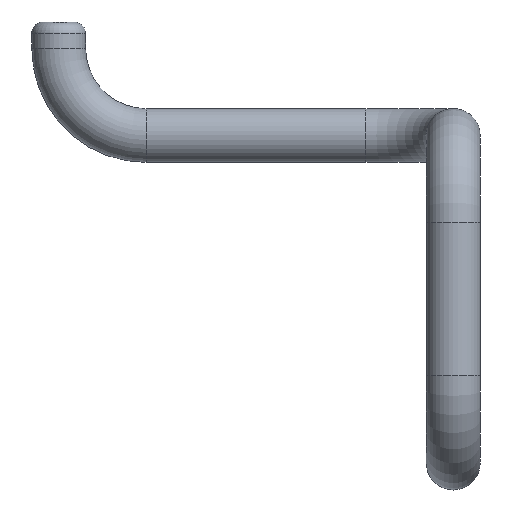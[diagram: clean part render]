
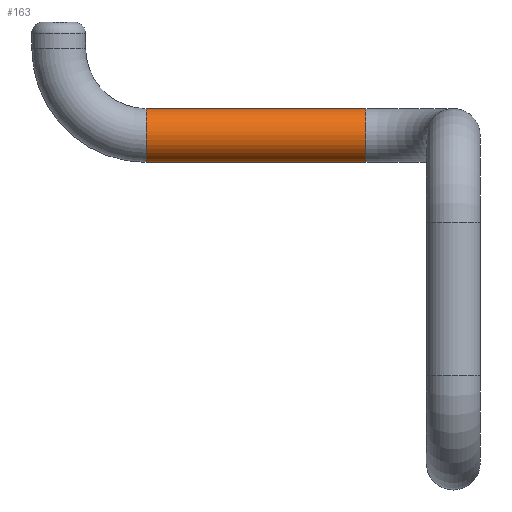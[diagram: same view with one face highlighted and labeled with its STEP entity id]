
A CAD part, left-side view. The second image highlights one B-rep face of the part: STEP entity #163.
In plain terms, the highlighted cylindrical face has radius 0.925 mm (diameter 1.85 mm), a full revolution.
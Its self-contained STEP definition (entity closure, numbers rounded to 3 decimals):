
#152 = TOROIDAL_SURFACE('',#153,3.,0.925);
#153 = AXIS2_PLACEMENT_3D('',#154,#155,#156);
#154 = CARTESIAN_POINT('',(-3.81,-12.428,-6.5));
#155 = DIRECTION('',(1.,-0.,0.));
#156 = DIRECTION('',(0.,0.,-1.));
#163 = ADVANCED_FACE('',(#164),#178,.T.);
#164 = FACE_BOUND('',#165,.T.);
#165 = EDGE_LOOP('',(#166,#195,#216,#217));
#166 = ORIENTED_EDGE('',*,*,#167,.T.);
#167 = EDGE_CURVE('',#168,#170,#172,.T.);
#168 = VERTEX_POINT('',#169);
#169 = CARTESIAN_POINT('',(-3.81,-19.99,-8.575));
#170 = VERTEX_POINT('',#171);
#171 = CARTESIAN_POINT('',(-3.81,-12.428,-8.575));
#172 = SEAM_CURVE('',#173,(#177,#189),.PCURVE_S1.);
#173 = LINE('',#174,#175);
#174 = CARTESIAN_POINT('',(-3.81,-19.99,-8.575));
#175 = VECTOR('',#176,1.);
#176 = DIRECTION('',(0.,1.,0.));
#177 = PCURVE('',#178,#183);
#178 = CYLINDRICAL_SURFACE('',#179,0.925);
#179 = AXIS2_PLACEMENT_3D('',#180,#181,#182);
#180 = CARTESIAN_POINT('',(-3.81,-19.99,-9.5));
#181 = DIRECTION('',(0.,1.,0.));
#182 = DIRECTION('',(0.,-0.,1.));
#183 = DEFINITIONAL_REPRESENTATION('',(#184),#188);
#184 = LINE('',#185,#186);
#185 = CARTESIAN_POINT('',(6.283,0.));
#186 = VECTOR('',#187,1.);
#187 = DIRECTION('',(0.,1.));
#188 = ( GEOMETRIC_REPRESENTATION_CONTEXT(2) 
PARAMETRIC_REPRESENTATION_CONTEXT() REPRESENTATION_CONTEXT('2D SPACE',''
  ) );
#189 = PCURVE('',#178,#190);
#190 = DEFINITIONAL_REPRESENTATION('',(#191),#194);
#191 = B_SPLINE_CURVE_WITH_KNOTS('',1,(#192,#193),.UNSPECIFIED.,.F.,.F.,
  (2,2),(0.,7.562),.PIECEWISE_BEZIER_KNOTS.);
#192 = CARTESIAN_POINT('',(0.,0.));
#193 = CARTESIAN_POINT('',(0.,7.562));
#194 = ( GEOMETRIC_REPRESENTATION_CONTEXT(2) 
PARAMETRIC_REPRESENTATION_CONTEXT() REPRESENTATION_CONTEXT('2D SPACE',''
  ) );
#195 = ORIENTED_EDGE('',*,*,#196,.F.);
#196 = EDGE_CURVE('',#170,#170,#197,.T.);
#197 = SURFACE_CURVE('',#198,(#203,#210),.PCURVE_S1.);
#198 = CIRCLE('',#199,0.925);
#199 = AXIS2_PLACEMENT_3D('',#200,#201,#202);
#200 = CARTESIAN_POINT('',(-3.81,-12.428,-9.5));
#201 = DIRECTION('',(0.,1.,0.));
#202 = DIRECTION('',(0.,0.,1.));
#203 = PCURVE('',#178,#204);
#204 = DEFINITIONAL_REPRESENTATION('',(#205),#209);
#205 = LINE('',#206,#207);
#206 = CARTESIAN_POINT('',(0.,7.562));
#207 = VECTOR('',#208,1.);
#208 = DIRECTION('',(1.,0.));
#209 = ( GEOMETRIC_REPRESENTATION_CONTEXT(2) 
PARAMETRIC_REPRESENTATION_CONTEXT() REPRESENTATION_CONTEXT('2D SPACE',''
  ) );
#210 = PCURVE('',#152,#211);
#211 = DEFINITIONAL_REPRESENTATION('',(#212),#215);
#212 = B_SPLINE_CURVE_WITH_KNOTS('',1,(#213,#214),.UNSPECIFIED.,.F.,.F.,
  (2,2),(0.,6.283),.PIECEWISE_BEZIER_KNOTS.);
#213 = CARTESIAN_POINT('',(0.,9.425));
#214 = CARTESIAN_POINT('',(0.,3.142));
#215 = ( GEOMETRIC_REPRESENTATION_CONTEXT(2) 
PARAMETRIC_REPRESENTATION_CONTEXT() REPRESENTATION_CONTEXT('2D SPACE',''
  ) );
#216 = ORIENTED_EDGE('',*,*,#167,.F.);
#217 = ORIENTED_EDGE('',*,*,#218,.F.);
#218 = EDGE_CURVE('',#168,#168,#219,.T.);
#219 = SURFACE_CURVE('',#220,(#225,#231),.PCURVE_S1.);
#220 = CIRCLE('',#221,0.925);
#221 = AXIS2_PLACEMENT_3D('',#222,#223,#224);
#222 = CARTESIAN_POINT('',(-3.81,-19.99,-9.5));
#223 = DIRECTION('',(0.,-1.,0.));
#224 = DIRECTION('',(1.,0.,0.));
#225 = PCURVE('',#178,#226);
#226 = DEFINITIONAL_REPRESENTATION('',(#227),#230);
#227 = B_SPLINE_CURVE_WITH_KNOTS('',1,(#228,#229),.UNSPECIFIED.,.F.,.F.,
  (2,2),(1.571,7.854),.PIECEWISE_BEZIER_KNOTS.);
#228 = CARTESIAN_POINT('',(6.283,0.));
#229 = CARTESIAN_POINT('',(0.,0.));
#230 = ( GEOMETRIC_REPRESENTATION_CONTEXT(2) 
PARAMETRIC_REPRESENTATION_CONTEXT() REPRESENTATION_CONTEXT('2D SPACE',''
  ) );
#231 = PCURVE('',#232,#237);
#232 = TOROIDAL_SURFACE('',#233,3.,0.925);
#233 = AXIS2_PLACEMENT_3D('',#234,#235,#236);
#234 = CARTESIAN_POINT('',(-6.81,-19.99,-9.5));
#235 = DIRECTION('',(-0.,0.,1.));
#236 = DIRECTION('',(0.,-1.,0.));
#237 = DEFINITIONAL_REPRESENTATION('',(#238),#242);
#238 = LINE('',#239,#240);
#239 = CARTESIAN_POINT('',(1.571,0.));
#240 = VECTOR('',#241,1.);
#241 = DIRECTION('',(0.,1.));
#242 = ( GEOMETRIC_REPRESENTATION_CONTEXT(2) 
PARAMETRIC_REPRESENTATION_CONTEXT() REPRESENTATION_CONTEXT('2D SPACE',''
  ) );
